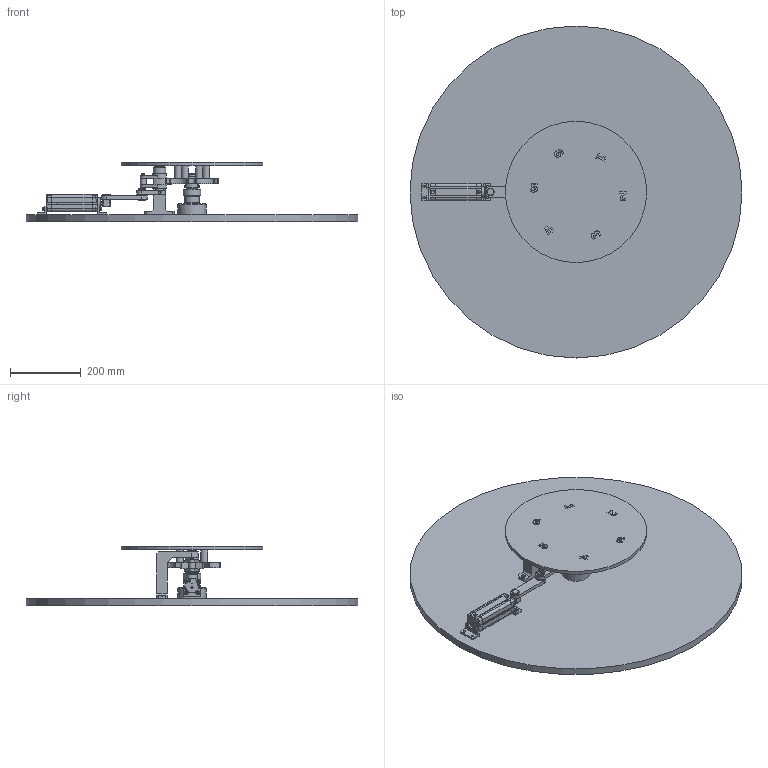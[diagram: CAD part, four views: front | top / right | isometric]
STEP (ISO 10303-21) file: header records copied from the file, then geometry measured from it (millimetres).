
FILE_DESCRIPTION(/* description */ (''),/* implementation_level */ '2;1');
FILE_NAME(/* name */ 'Assieme croce malta2.stp',/* time_stamp */ '2025-10-31T15:55:42+01:00',/* author */ ('R5800u'),/* organization */ (''),/* preprocessor_version */ 'ST-DEVELOPER v20',/* originating_system */ 'Autodesk Inventor 2025',/* authorisation */ '');
FILE_SCHEMA (('AUTOMOTIVE_DESIGN { 1 0 10303 214 3 1 1 }'));
Length unit declared in the file: millimetre
Products named in the file (26): Assieme bielletta; bielletta; perno; nottolino; bronzina; anello; perno2; croce di malta; perno3; 2300320100FP_0-GA-M-0-A-0-0_B; 230-32-CMPC2F-HF; 230-32/100-CMPC2F-BR; 230-32-CMPC2F-HR; W0950322001-25_; Cylinder head screw DIN 912 M6x16; 230-32/100-CMPC2F-PR; biella; manovella; testa_stelo; perno4; ANSI B 27.7M - 3AMI-18; AS 1236 - 1,6 x  12; tavolo; BS 292: Parte 1 - 7004 - 20 x 42 x 12; tavolo_mobile; BLOCCO_PERNO
Assembly tree (31 placements, depth 3):
  Assieme bielletta
    bielletta
    perno
    nottolino
    bronzina
    anello
    perno2
    croce di malta
    perno3
    2300320100FP_0-GA-M-0-A-0-0_B
      230-32-CMPC2F-HF
      230-32/100-CMPC2F-BR
      230-32-CMPC2F-HR
      W0950322001-25_  x2
      Cylinder head screw DIN 912 M6x16  x4
      230-32/100-CMPC2F-PR
    biella
    manovella
    testa_stelo
    perno4
    ANSI B 27.7M - 3AMI-18  x3
    AS 1236 - 1,6 x  12
    tavolo
    BS 292: Parte 1 - 7004 - 20 x 42 x 12
    tavolo_mobile
    BLOCCO_PERNO
Bounding box: 940 x 940 x 167.75 mm (x, y, z)
Volume: 16217492.9 mm3; surface area: 1979521.3 mm2
Topology: 40 solids, 40 shells, 1088 faces, 2809 edges, 1852 vertices
Faces by surface type: plane 526, cylinder 410, bspline 63, cone 40, torus 36, sphere 13
Full cylindrical faces by diameter (mm): 2 x7, 3 x2, 4.917 x8, 5.5 x2, 6 x5, 6.5 x2, 6.6 x10, 6.647 x12, 7 x8, 7.6 x8, 7.691 x1, 8 x8, 8.566 x2, 9 x8, 10 x5, 10.5 x1, 11 x2, 12 x1, 13 x2, 15 x1, 18 x4, 20 x21, 24 x1, 27.172 x2, 28 x1, 30 x1, 32 x2, 34.828 x1, 39 x2, 40 x3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
Entity records: 32000 total; most frequent: CARTESIAN_POINT 6452, DIRECTION 5199, ORIENTED_EDGE 5042, EDGE_CURVE 2521, AXIS2_PLACEMENT_3D 1872, VERTEX_POINT 1708, LINE 1455, VECTOR 1455
